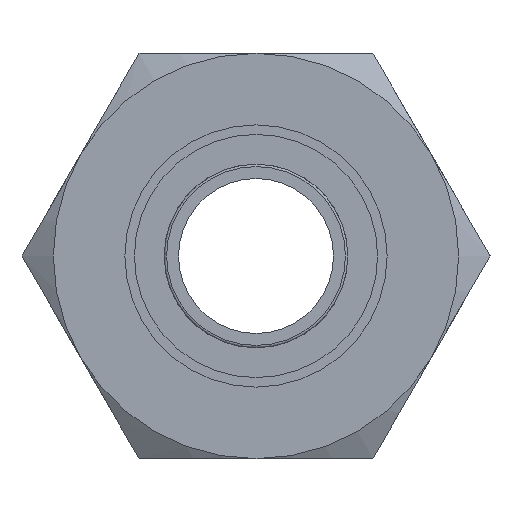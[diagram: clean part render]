
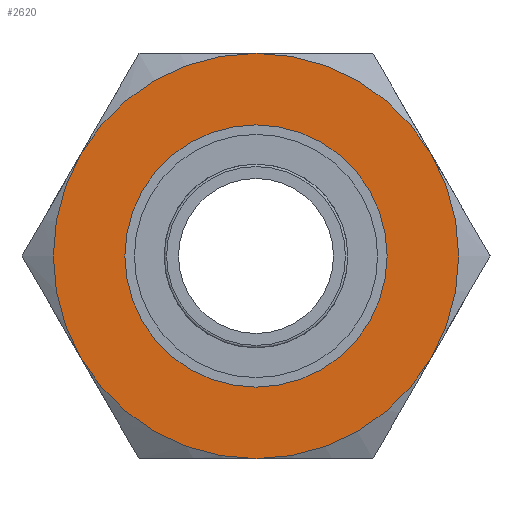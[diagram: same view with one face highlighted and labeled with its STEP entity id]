
A CAD part, left-side view. The second image highlights one B-rep face of the part: STEP entity #2620.
In plain terms, the highlighted free-form (B-spline) face has degree [1, 1] with [2, 2] control points.
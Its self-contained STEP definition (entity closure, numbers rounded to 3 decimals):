
#314=CARTESIAN_POINT('',(-17.059,0.,-8.5));
#315=VERTEX_POINT('',#314);
#472=CARTESIAN_POINT('',(-17.059,7.361,-4.25));
#473=VERTEX_POINT('',#472);
#614=CARTESIAN_POINT('',(-17.059,7.361,4.25));
#615=VERTEX_POINT('',#614);
#756=CARTESIAN_POINT('',(-17.059,-7.361,-4.25));
#757=VERTEX_POINT('',#756);
#898=CARTESIAN_POINT('',(-17.059,0.,8.5));
#899=VERTEX_POINT('',#898);
#1040=CARTESIAN_POINT('',(-17.059,-7.361,4.25));
#1041=VERTEX_POINT('',#1040);
#1186=CARTESIAN_POINT('',(-17.059,0.0,0.0));
#1187=DIRECTION('',(1.0,0.0,0.0));
#1188=DIRECTION('',(0.0,1.0,0.0));
#1189=AXIS2_PLACEMENT_3D('',#1186,#1187,#1188);
#1190=CIRCLE('',#1189,8.5);
#1191=EDGE_CURVE('',#1041,#757,#1190,.T.);
#1225=CARTESIAN_POINT('',(-17.059,0.0,0.0));
#1226=DIRECTION('',(1.0,0.0,0.0));
#1227=DIRECTION('',(0.0,1.0,0.0));
#1228=AXIS2_PLACEMENT_3D('',#1225,#1226,#1227);
#1229=CIRCLE('',#1228,8.5);
#1230=EDGE_CURVE('',#757,#315,#1229,.T.);
#1263=CARTESIAN_POINT('',(-17.059,0.0,0.0));
#1264=DIRECTION('',(1.0,0.0,0.0));
#1265=DIRECTION('',(0.0,1.0,0.0));
#1266=AXIS2_PLACEMENT_3D('',#1263,#1264,#1265);
#1267=CIRCLE('',#1266,8.5);
#1268=EDGE_CURVE('',#315,#473,#1267,.T.);
#1300=CARTESIAN_POINT('',(-17.059,0.0,0.0));
#1301=DIRECTION('',(1.0,0.0,0.0));
#1302=DIRECTION('',(0.0,1.0,0.0));
#1303=AXIS2_PLACEMENT_3D('',#1300,#1301,#1302);
#1304=CIRCLE('',#1303,8.5);
#1305=EDGE_CURVE('',#899,#1041,#1304,.T.);
#1339=CARTESIAN_POINT('',(-17.059,0.0,0.0));
#1340=DIRECTION('',(1.0,0.0,0.0));
#1341=DIRECTION('',(0.0,1.0,0.0));
#1342=AXIS2_PLACEMENT_3D('',#1339,#1340,#1341);
#1343=CIRCLE('',#1342,8.5);
#1344=EDGE_CURVE('',#473,#615,#1343,.T.);
#2585=CARTESIAN_POINT('',(-17.059,0.0,0.0));
#2586=DIRECTION('',(1.0,0.0,0.0));
#2587=DIRECTION('',(0.0,1.0,0.0));
#2588=AXIS2_PLACEMENT_3D('',#2585,#2586,#2587);
#2589=CIRCLE('',#2588,8.5);
#2590=EDGE_CURVE('',#615,#899,#2589,.T.);
#2596=CARTESIAN_POINT('',(-17.059,8.5,8.5));
#2597=CARTESIAN_POINT('',(-17.059,8.5,-8.5));
#2598=CARTESIAN_POINT('',(-17.059,-8.5,8.5));
#2599=CARTESIAN_POINT('',(-17.059,-8.5,-8.5));
#2600=B_SPLINE_SURFACE_WITH_KNOTS('',1,1,((#2596,#2598),(#2597,#2599)),.UNSPECIFIED.,.F.,.F.,.U.,(2,2),(2,2),(0.0,17.),(0.0,17.),.UNSPECIFIED.);
#2601=ORIENTED_EDGE('',*,*,#1344,.F.);
#2602=ORIENTED_EDGE('',*,*,#1268,.F.);
#2603=ORIENTED_EDGE('',*,*,#1230,.F.);
#2604=ORIENTED_EDGE('',*,*,#1191,.F.);
#2605=ORIENTED_EDGE('',*,*,#1305,.F.);
#2606=ORIENTED_EDGE('',*,*,#2590,.F.);
#2607=EDGE_LOOP('',(#2601,#2602,#2603,#2604,#2605,#2606));
#2608=FACE_OUTER_BOUND('',#2607,.T.);
#2609=CARTESIAN_POINT('',(-17.059,5.5,0.0));
#2610=VERTEX_POINT('',#2609);
#2611=CARTESIAN_POINT('',(-17.059,0.0,0.0));
#2612=DIRECTION('',(1.0,0.0,0.0));
#2613=DIRECTION('',(0.0,1.0,0.0));
#2614=AXIS2_PLACEMENT_3D('',#2611,#2612,#2613);
#2615=CIRCLE('',#2614,5.5);
#2616=EDGE_CURVE('',#2610,#2610,#2615,.T.);
#2617=ORIENTED_EDGE('',*,*,#2616,.T.);
#2618=EDGE_LOOP('',(#2617));
#2619=FACE_BOUND('',#2618,.T.);
#2620=ADVANCED_FACE('',(#2608,#2619),#2600,.T.);
